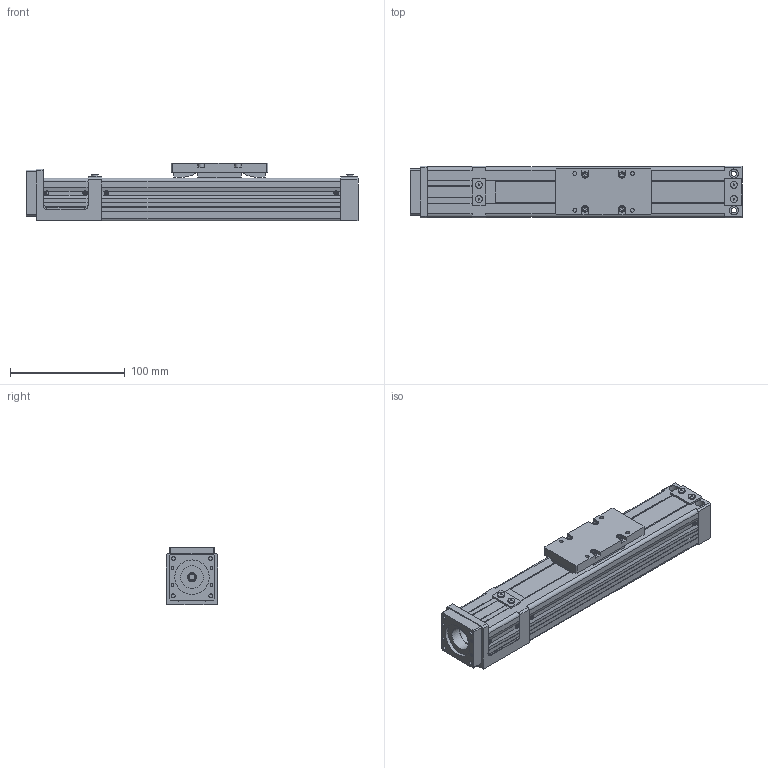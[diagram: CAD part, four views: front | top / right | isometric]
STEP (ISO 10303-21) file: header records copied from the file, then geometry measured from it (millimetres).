
FILE_DESCRIPTION((''),'2;1');
FILE_NAME('D:\製品 (図面)\カタログ用3D\SU部品\SU45×50\ダウンロード用\SU45×50-MB40\SU45×50-100-MB40.stp','2011-03-30T14:02:41',('Tsuchiya'),(''),'Autodesk Inventor 10','Autodesk Inventor 10','');
FILE_SCHEMA(('AUTOMOTIVE_DESIGN { 1 0 10303 214 1 1 1 1 }'));
Length unit declared in the file: millimetre
Products named in the file (3): SU45×50-100-MB40; SU45×50-100-MB401; SU45×50-100-MB402
Assembly tree (2 placements, depth 2):
  SU45×50-100-MB40
    SU45×50-100-MB401
    SU45×50-100-MB402
Bounding box: 289 x 45 x 50 mm (x, y, z)
Volume: 232183.2 mm3; surface area: 123143.2 mm2
Topology: 2 solids, 2 shells, 664 faces, 1795 edges, 1183 vertices
Faces by surface type: plane 517, cylinder 84, bspline 32, torus 18, cone 13
Full cylindrical faces by diameter (mm): 2.459 x4, 3.242 x8, 3.4 x4, 4.5 x4, 5 x4, 6 x5, 7 x6, 8 x7, 10 x1, 20 x2, 30 x2
Entity records: 20415 total; most frequent: CARTESIAN_POINT 4291, ORIENTED_EDGE 3314, DIRECTION 3102, EDGE_CURVE 1657, VECTOR 1322, LINE 1322, VERTEX_POINT 1141, AXIS2_PLACEMENT_3D 890
